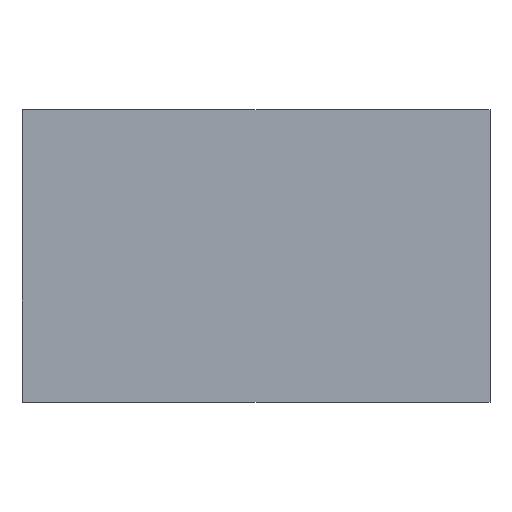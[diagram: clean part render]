
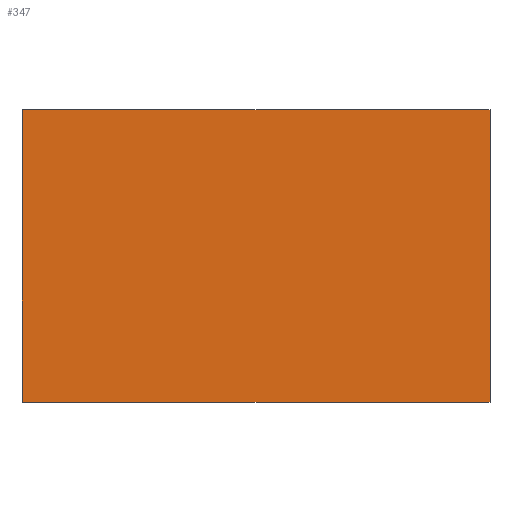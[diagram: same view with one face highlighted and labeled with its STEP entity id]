
A CAD part, top view. The second image highlights one B-rep face of the part: STEP entity #347.
In plain terms, the highlighted planar face has unit normal (0, 0, 1) as drawn and (0, 0, -1) by its records, which use the part's own axes.
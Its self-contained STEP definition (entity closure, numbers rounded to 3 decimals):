
#347=ADVANCED_FACE('',(#518),#520,.F.);
#518=FACE_BOUND('',#519,.T.);
#519=EDGE_LOOP('',(#788,#789,#790,#791));
#520=PLANE('',#521);
#521=AXIS2_PLACEMENT_3D('',#522,#523,#524);
#522=CARTESIAN_POINT('',(0.,0.,-0.05));
#523=DIRECTION('',(0.,0.,1.));
#524=DIRECTION('',(1.,0.,0.));
#788=ORIENTED_EDGE('',*,*,#976,.F.);
#789=ORIENTED_EDGE('',*,*,#974,.F.);
#790=ORIENTED_EDGE('',*,*,#971,.F.);
#791=ORIENTED_EDGE('',*,*,#968,.F.);
#968=EDGE_CURVE('',#1144,#1139,#1146,.T.);
#971=EDGE_CURVE('',#1139,#1147,#1151,.T.);
#974=EDGE_CURVE('',#1147,#1152,#1156,.T.);
#976=EDGE_CURVE('',#1152,#1144,#1158,.T.);
#1139=VERTEX_POINT('',#1342);
#1144=VERTEX_POINT('',#1351);
#1146=LINE('',#1355,#1356);
#1147=VERTEX_POINT('',#1358);
#1151=LINE('',#1366,#1367);
#1152=VERTEX_POINT('',#1369);
#1156=LINE('',#1377,#1378);
#1158=LINE('',#1383,#1384);
#1342=CARTESIAN_POINT('',(1.,0.625,-0.05));
#1351=CARTESIAN_POINT('',(1.,-0.625,-0.05));
#1355=CARTESIAN_POINT('',(1.,-0.625,-0.05));
#1356=VECTOR('',#1357,1.);
#1357=DIRECTION('',(0.,1.,0.));
#1358=CARTESIAN_POINT('',(-1.,0.625,-0.05));
#1366=CARTESIAN_POINT('',(1.,0.625,-0.05));
#1367=VECTOR('',#1368,1.);
#1368=DIRECTION('',(-1.,0.,0.));
#1369=CARTESIAN_POINT('',(-1.,-0.625,-0.05));
#1377=CARTESIAN_POINT('',(-1.,0.625,-0.05));
#1378=VECTOR('',#1379,1.);
#1379=DIRECTION('',(0.,-1.,0.));
#1383=CARTESIAN_POINT('',(-1.,-0.625,-0.05));
#1384=VECTOR('',#1385,1.);
#1385=DIRECTION('',(1.,0.,0.));
